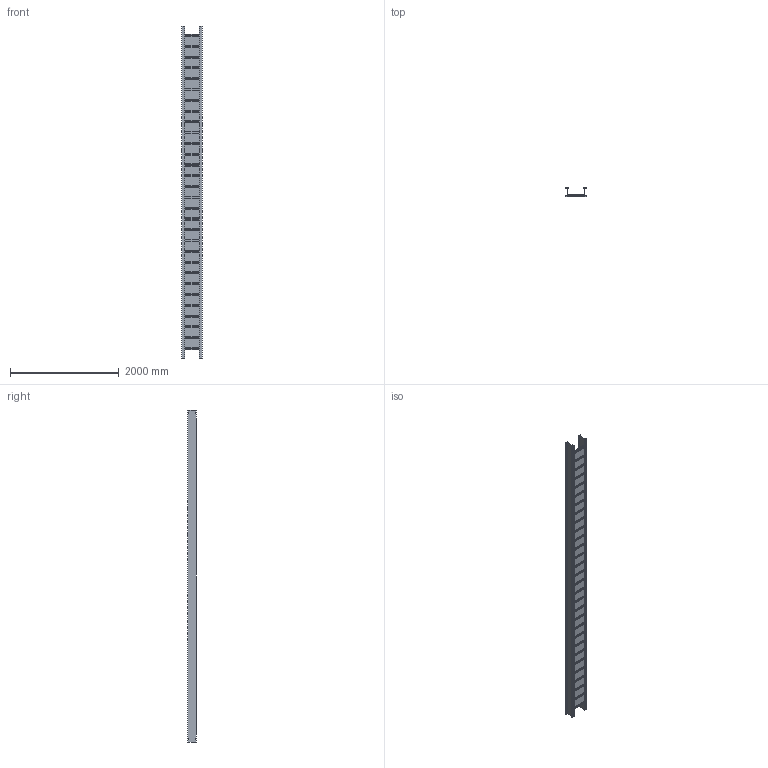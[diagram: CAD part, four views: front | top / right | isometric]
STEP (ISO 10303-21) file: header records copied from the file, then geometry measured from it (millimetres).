
FILE_DESCRIPTION((''),'2;1');
FILE_NAME('AH6612L06240_ASM','2010-02-05T',('erouzier'),(''),'PRO/ENGINEER BY PARAMETRIC TECHNOLOGY CORPORATION, 2008510','PRO/ENGINEER BY PARAMETRIC TECHNOLOGY CORPORATION, 2008510','');
FILE_SCHEMA(('CONFIG_CONTROL_DESIGN'));
Length unit declared in the file: inch
Products named in the file (28): CDS002156-012_AF3; CDS002156-012_AF4; CDS002159L12-P_AF0; CDS002159L12-P_AF1; CDS002159L12-P_AF2; CDS002159L12-P_AF3; CDS002159L12-P_AF4; CDS002159L12-P_AF5; CDS002159L12-P_AF6; CDS002159L12-P_AF7; CDS002159L12-P_AF8; CDS002159L12-P_AF9; CDS002159L12-P_AF10; CDS002159L12-P_AF11; CDS002159L12-P_AF12; CDS002159L12-P; CDS002159L12-P_AF13; CDS002159L12-P_AF14; CDS002159L12-P_AF15; CDS002159L12-P_AF16; CDS002159L12-P_AF17; CDS002159L12-P_AF18; CDS002159L12-P_AF19; CDS002159L12-P_AF20; CDS002159L12-P_AF21; CDS002159L12-P_AF22; CDS002159L12-P_AF23; AH6612L06240_ASM
Assembly tree (32 placements, depth 2):
  AH6612L06240_ASM
    CDS002156-012_AF3
    CDS002156-012_AF4
    CDS002159L12-P_AF0
    CDS002159L12-P_AF1
    CDS002159L12-P_AF2
    CDS002159L12-P_AF3
    CDS002159L12-P_AF4
    CDS002159L12-P_AF5
    CDS002159L12-P_AF6
    CDS002159L12-P_AF7
    CDS002159L12-P_AF8
    CDS002159L12-P_AF9
    CDS002159L12-P_AF10
    CDS002159L12-P_AF11
    CDS002159L12-P_AF12
    CDS002159L12-P  x6
    CDS002159L12-P_AF13
    CDS002159L12-P_AF14
    CDS002159L12-P_AF15
    CDS002159L12-P_AF16
    CDS002159L12-P_AF17
    CDS002159L12-P_AF18
    CDS002159L12-P_AF19
    CDS002159L12-P_AF20
    CDS002159L12-P_AF21
    CDS002159L12-P_AF22
    CDS002159L12-P_AF23
Bounding box: 381.76 x 160.53 x 6096 mm (x, y, z)
Volume: 13911387.8 mm3; surface area: 10162083.4 mm2
Topology: 32 solids, 33 shells, 3381 faces, 9952 edges, 6636 vertices
Faces by surface type: plane 1847, cylinder 1534
Entity records: 96482 total; most frequent: CARTESIAN_POINT 16779, DIRECTION 16672, ORIENTED_EDGE 16660, EDGE_CURVE 8332, VECTOR 5774, LINE 5774, VERTEX_POINT 5556, AXIS2_PLACEMENT_3D 5449
